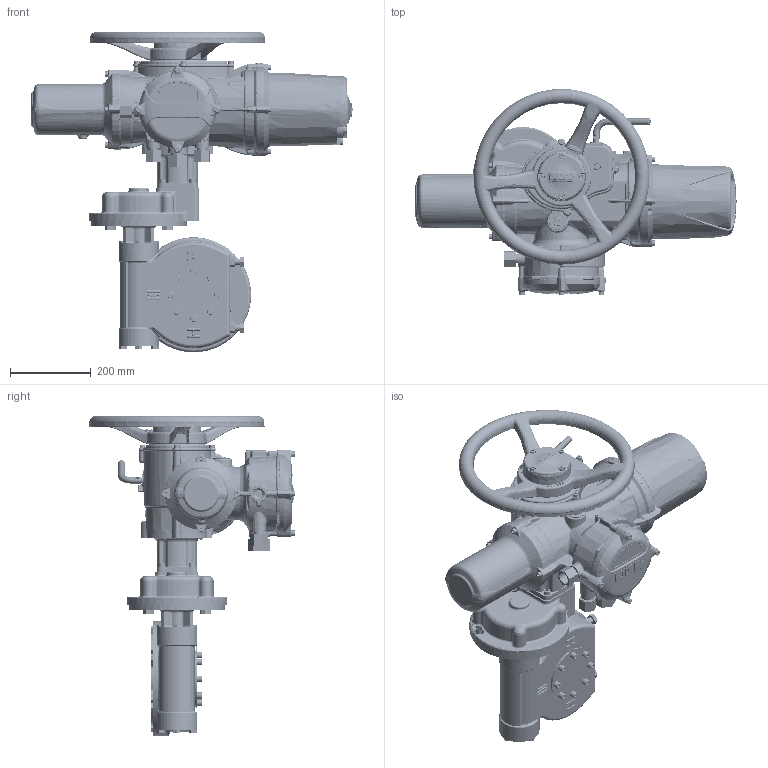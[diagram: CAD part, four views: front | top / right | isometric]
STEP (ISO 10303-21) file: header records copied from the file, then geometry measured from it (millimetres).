
FILE_DESCRIPTION( ( 'Unknown' ), '1' );
FILE_NAME( 'S:/DocsUnderChange/DrawingsFromMTMS/InstallationDrgs/Standardised drawings/IQ3/IWD/II2THWIWD5RHSTD-1.stp', 'Unknown', ( 'Unknown' ), ( 'Unknown' ), 'PSStep 17.0.49', 'Unknown', ' ' );
FILE_SCHEMA( ( 'AUTOMOTIVE_DESIGN { 1 0 10303 214 1 1 1 1 }' ) );
Length unit declared in the file: millimetre
Products named in the file (9): II0-55-std
Bounding box: 795.75 x 510.06 x 794.63 mm (x, y, z)
Volume: 11659166.1 mm3; surface area: 1847646 mm2
Topology: 47 solids, 85 shells, 7332 faces, 18191 edges, 10936 vertices
Faces by surface type: bspline 2347, plane 2216, cylinder 1037, cone 723, torus 645, sphere 184, extrusion 144, revolution 21, offset 15
Full cylindrical faces by diameter (mm): 1.152 x1, 3 x8, 3.54 x2, 4 x2, 6 x3, 6.45 x8, 6.47 x8, 6.5 x1, 7 x4, 7.6 x4, 8 x25, 8.1 x1, 8.2 x1, 8.5 x8, 10 x29, 10.3 x8, 10.5 x24, 10.625 x4, 11 x8, 11.78 x1, 13 x17, 13.25 x4, 13.835 x4, 14 x1, 14.376 x4, 15.5 x1, 15.84 x1, 16 x22, 16.5 x4, 18 x3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
Entity records: 641894 total; most frequent: CARTESIAN_POINT 433492, ORIENTED_EDGE 34082, DIRECTION 26248, EDGE_CURVE 17041, AXIS2_PLACEMENT_3D 10786, VERTEX_POINT 10620, EDGE_LOOP 8202, FACE_OUTER_BOUND 7646
